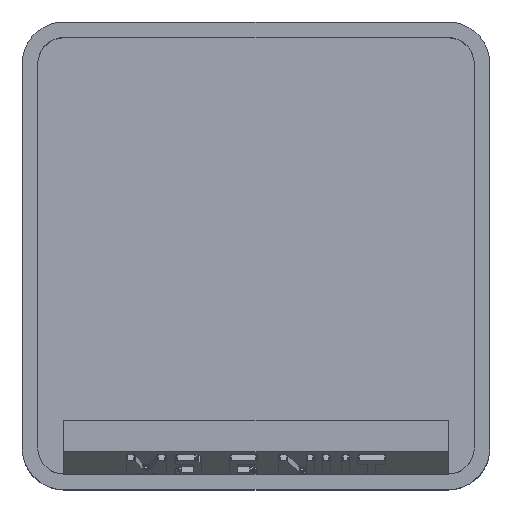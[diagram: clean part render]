
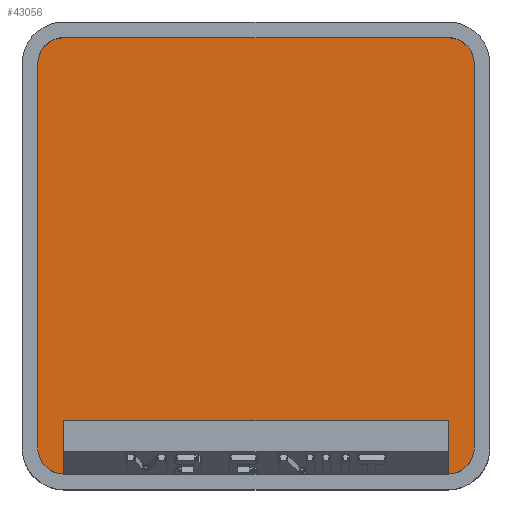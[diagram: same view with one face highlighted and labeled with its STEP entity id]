
A CAD part, top view. The second image highlights one B-rep face of the part: STEP entity #43056.
In plain terms, the highlighted planar face has unit normal (0, 0, 1).
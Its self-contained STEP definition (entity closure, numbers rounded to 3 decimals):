
#912 = PLANE('',#913);
#913 = AXIS2_PLACEMENT_3D('',#914,#915,#916);
#914 = CARTESIAN_POINT('',(-19.6,0.,21.));
#915 = DIRECTION('',(-1.,0.,0.));
#916 = DIRECTION('',(-0.,-1.,-0.));
#940 = CYLINDRICAL_SURFACE('',#941,2.35);
#941 = AXIS2_PLACEMENT_3D('',#942,#943,#944);
#942 = CARTESIAN_POINT('',(-17.25,17.25,5.95));
#943 = DIRECTION('',(-0.,-0.,1.));
#944 = DIRECTION('',(-1.,0.,0.));
#967 = PLANE('',#968);
#968 = AXIS2_PLACEMENT_3D('',#969,#970,#971);
#969 = CARTESIAN_POINT('',(0.,19.6,21.));
#970 = DIRECTION('',(0.,1.,0.));
#971 = DIRECTION('',(-1.,0.,0.));
#995 = CYLINDRICAL_SURFACE('',#996,2.35);
#996 = AXIS2_PLACEMENT_3D('',#997,#998,#999);
#997 = CARTESIAN_POINT('',(17.25,17.25,5.95));
#998 = DIRECTION('',(-0.,-0.,1.));
#999 = DIRECTION('',(-1.,0.,0.));
#1022 = PLANE('',#1023);
#1023 = AXIS2_PLACEMENT_3D('',#1024,#1025,#1026);
#1024 = CARTESIAN_POINT('',(19.6,0.,21.));
#1025 = DIRECTION('',(1.,0.,0.));
#1026 = DIRECTION('',(-0.,1.,0.));
#1050 = CYLINDRICAL_SURFACE('',#1051,2.35);
#1051 = AXIS2_PLACEMENT_3D('',#1052,#1053,#1054);
#1052 = CARTESIAN_POINT('',(17.25,-17.25,5.95));
#1053 = DIRECTION('',(-0.,-0.,1.));
#1054 = DIRECTION('',(-1.,0.,0.));
#1103 = CYLINDRICAL_SURFACE('',#1104,2.35);
#1104 = AXIS2_PLACEMENT_3D('',#1105,#1106,#1107);
#1105 = CARTESIAN_POINT('',(-17.25,-17.25,5.95));
#1106 = DIRECTION('',(-0.,-0.,1.));
#1107 = DIRECTION('',(-1.,0.,0.));
#15893 = EDGE_CURVE('',#15894,#15896,#15898,.T.);
#15894 = VERTEX_POINT('',#15895);
#15895 = CARTESIAN_POINT('',(-19.6,-17.25,5.95));
#15896 = VERTEX_POINT('',#15897);
#15897 = CARTESIAN_POINT('',(-19.6,17.25,5.95));
#15898 = SURFACE_CURVE('',#15899,(#15903,#15910),.PCURVE_S1.);
#15899 = LINE('',#15900,#15901);
#15900 = CARTESIAN_POINT('',(-19.6,0.,5.95));
#15901 = VECTOR('',#15902,1.);
#15902 = DIRECTION('',(0.,1.,0.));
#15903 = PCURVE('',#912,#15904);
#15904 = DEFINITIONAL_REPRESENTATION('',(#15905),#15909);
#15905 = LINE('',#15906,#15907);
#15906 = CARTESIAN_POINT('',(0.,-15.05));
#15907 = VECTOR('',#15908,1.);
#15908 = DIRECTION('',(-1.,0.));
#15909 = ( GEOMETRIC_REPRESENTATION_CONTEXT(2) 
PARAMETRIC_REPRESENTATION_CONTEXT() REPRESENTATION_CONTEXT('2D SPACE',''
  ) );
#15910 = PCURVE('',#15911,#15916);
#15911 = PLANE('',#15912);
#15912 = AXIS2_PLACEMENT_3D('',#15913,#15914,#15915);
#15913 = CARTESIAN_POINT('',(-17.25,-17.25,5.95));
#15914 = DIRECTION('',(0.,0.,-1.));
#15915 = DIRECTION('',(-1.,0.,0.));
#15916 = DEFINITIONAL_REPRESENTATION('',(#15917),#15921);
#15917 = LINE('',#15918,#15919);
#15918 = CARTESIAN_POINT('',(2.35,17.25));
#15919 = VECTOR('',#15920,1.);
#15920 = DIRECTION('',(0.,1.));
#15921 = ( GEOMETRIC_REPRESENTATION_CONTEXT(2) 
PARAMETRIC_REPRESENTATION_CONTEXT() REPRESENTATION_CONTEXT('2D SPACE',''
  ) );
#15968 = EDGE_CURVE('',#15969,#15894,#15971,.T.);
#15969 = VERTEX_POINT('',#15970);
#15970 = CARTESIAN_POINT('',(-17.25,-19.6,5.95));
#15971 = SURFACE_CURVE('',#15972,(#15977,#15984),.PCURVE_S1.);
#15972 = CIRCLE('',#15973,2.35);
#15973 = AXIS2_PLACEMENT_3D('',#15974,#15975,#15976);
#15974 = CARTESIAN_POINT('',(-17.25,-17.25,5.95));
#15975 = DIRECTION('',(0.,0.,-1.));
#15976 = DIRECTION('',(-1.,0.,0.));
#15977 = PCURVE('',#1103,#15978);
#15978 = DEFINITIONAL_REPRESENTATION('',(#15979),#15983);
#15979 = LINE('',#15980,#15981);
#15980 = CARTESIAN_POINT('',(6.283,0.));
#15981 = VECTOR('',#15982,1.);
#15982 = DIRECTION('',(-1.,0.));
#15983 = ( GEOMETRIC_REPRESENTATION_CONTEXT(2) 
PARAMETRIC_REPRESENTATION_CONTEXT() REPRESENTATION_CONTEXT('2D SPACE',''
  ) );
#15984 = PCURVE('',#15911,#15985);
#15985 = DEFINITIONAL_REPRESENTATION('',(#15986),#15990);
#15986 = CIRCLE('',#15987,2.35);
#15987 = AXIS2_PLACEMENT_2D('',#15988,#15989);
#15988 = CARTESIAN_POINT('',(0.,0.));
#15989 = DIRECTION('',(1.,0.));
#15990 = ( GEOMETRIC_REPRESENTATION_CONTEXT(2) 
PARAMETRIC_REPRESENTATION_CONTEXT() REPRESENTATION_CONTEXT('2D SPACE',''
  ) );
#16008 = PLANE('',#16009);
#16009 = AXIS2_PLACEMENT_3D('',#16010,#16011,#16012);
#16010 = CARTESIAN_POINT('',(0.,-19.6,21.));
#16011 = DIRECTION('',(0.,-1.,0.));
#16012 = DIRECTION('',(1.,0.,0.));
#16095 = EDGE_CURVE('',#16096,#16098,#16100,.T.);
#16096 = VERTEX_POINT('',#16097);
#16097 = CARTESIAN_POINT('',(19.6,-17.25,5.95));
#16098 = VERTEX_POINT('',#16099);
#16099 = CARTESIAN_POINT('',(17.25,-19.6,5.95));
#16100 = SURFACE_CURVE('',#16101,(#16106,#16113),.PCURVE_S1.);
#16101 = CIRCLE('',#16102,2.35);
#16102 = AXIS2_PLACEMENT_3D('',#16103,#16104,#16105);
#16103 = CARTESIAN_POINT('',(17.25,-17.25,5.95));
#16104 = DIRECTION('',(0.,0.,-1.));
#16105 = DIRECTION('',(-1.,0.,0.));
#16106 = PCURVE('',#1050,#16107);
#16107 = DEFINITIONAL_REPRESENTATION('',(#16108),#16112);
#16108 = LINE('',#16109,#16110);
#16109 = CARTESIAN_POINT('',(6.283,0.));
#16110 = VECTOR('',#16111,1.);
#16111 = DIRECTION('',(-1.,0.));
#16112 = ( GEOMETRIC_REPRESENTATION_CONTEXT(2) 
PARAMETRIC_REPRESENTATION_CONTEXT() REPRESENTATION_CONTEXT('2D SPACE',''
  ) );
#16113 = PCURVE('',#15911,#16114);
#16114 = DEFINITIONAL_REPRESENTATION('',(#16115),#16119);
#16115 = CIRCLE('',#16116,2.35);
#16116 = AXIS2_PLACEMENT_2D('',#16117,#16118);
#16117 = CARTESIAN_POINT('',(-34.5,0.));
#16118 = DIRECTION('',(1.,0.));
#16119 = ( GEOMETRIC_REPRESENTATION_CONTEXT(2) 
PARAMETRIC_REPRESENTATION_CONTEXT() REPRESENTATION_CONTEXT('2D SPACE',''
  ) );
#16193 = EDGE_CURVE('',#16096,#16194,#16196,.T.);
#16194 = VERTEX_POINT('',#16195);
#16195 = CARTESIAN_POINT('',(19.6,17.25,5.95));
#16196 = SURFACE_CURVE('',#16197,(#16201,#16208),.PCURVE_S1.);
#16197 = LINE('',#16198,#16199);
#16198 = CARTESIAN_POINT('',(19.6,0.,5.95));
#16199 = VECTOR('',#16200,1.);
#16200 = DIRECTION('',(0.,1.,0.));
#16201 = PCURVE('',#1022,#16202);
#16202 = DEFINITIONAL_REPRESENTATION('',(#16203),#16207);
#16203 = LINE('',#16204,#16205);
#16204 = CARTESIAN_POINT('',(0.,-15.05));
#16205 = VECTOR('',#16206,1.);
#16206 = DIRECTION('',(1.,0.));
#16207 = ( GEOMETRIC_REPRESENTATION_CONTEXT(2) 
PARAMETRIC_REPRESENTATION_CONTEXT() REPRESENTATION_CONTEXT('2D SPACE',''
  ) );
#16208 = PCURVE('',#15911,#16209);
#16209 = DEFINITIONAL_REPRESENTATION('',(#16210),#16214);
#16210 = LINE('',#16211,#16212);
#16211 = CARTESIAN_POINT('',(-36.85,17.25));
#16212 = VECTOR('',#16213,1.);
#16213 = DIRECTION('',(0.,1.));
#16214 = ( GEOMETRIC_REPRESENTATION_CONTEXT(2) 
PARAMETRIC_REPRESENTATION_CONTEXT() REPRESENTATION_CONTEXT('2D SPACE',''
  ) );
#16241 = EDGE_CURVE('',#16242,#16194,#16244,.T.);
#16242 = VERTEX_POINT('',#16243);
#16243 = CARTESIAN_POINT('',(17.25,19.6,5.95));
#16244 = SURFACE_CURVE('',#16245,(#16250,#16257),.PCURVE_S1.);
#16245 = CIRCLE('',#16246,2.35);
#16246 = AXIS2_PLACEMENT_3D('',#16247,#16248,#16249);
#16247 = CARTESIAN_POINT('',(17.25,17.25,5.95));
#16248 = DIRECTION('',(0.,0.,-1.));
#16249 = DIRECTION('',(-1.,0.,0.));
#16250 = PCURVE('',#995,#16251);
#16251 = DEFINITIONAL_REPRESENTATION('',(#16252),#16256);
#16252 = LINE('',#16253,#16254);
#16253 = CARTESIAN_POINT('',(6.283,0.));
#16254 = VECTOR('',#16255,1.);
#16255 = DIRECTION('',(-1.,0.));
#16256 = ( GEOMETRIC_REPRESENTATION_CONTEXT(2) 
PARAMETRIC_REPRESENTATION_CONTEXT() REPRESENTATION_CONTEXT('2D SPACE',''
  ) );
#16257 = PCURVE('',#15911,#16258);
#16258 = DEFINITIONAL_REPRESENTATION('',(#16259),#16263);
#16259 = CIRCLE('',#16260,2.35);
#16260 = AXIS2_PLACEMENT_2D('',#16261,#16262);
#16261 = CARTESIAN_POINT('',(-34.5,34.5));
#16262 = DIRECTION('',(1.,0.));
#16263 = ( GEOMETRIC_REPRESENTATION_CONTEXT(2) 
PARAMETRIC_REPRESENTATION_CONTEXT() REPRESENTATION_CONTEXT('2D SPACE',''
  ) );
#16291 = EDGE_CURVE('',#16292,#16242,#16294,.T.);
#16292 = VERTEX_POINT('',#16293);
#16293 = CARTESIAN_POINT('',(-17.25,19.6,5.95));
#16294 = SURFACE_CURVE('',#16295,(#16299,#16306),.PCURVE_S1.);
#16295 = LINE('',#16296,#16297);
#16296 = CARTESIAN_POINT('',(0.,19.6,5.95));
#16297 = VECTOR('',#16298,1.);
#16298 = DIRECTION('',(1.,0.,0.));
#16299 = PCURVE('',#967,#16300);
#16300 = DEFINITIONAL_REPRESENTATION('',(#16301),#16305);
#16301 = LINE('',#16302,#16303);
#16302 = CARTESIAN_POINT('',(0.,-15.05));
#16303 = VECTOR('',#16304,1.);
#16304 = DIRECTION('',(-1.,0.));
#16305 = ( GEOMETRIC_REPRESENTATION_CONTEXT(2) 
PARAMETRIC_REPRESENTATION_CONTEXT() REPRESENTATION_CONTEXT('2D SPACE',''
  ) );
#16306 = PCURVE('',#15911,#16307);
#16307 = DEFINITIONAL_REPRESENTATION('',(#16308),#16312);
#16308 = LINE('',#16309,#16310);
#16309 = CARTESIAN_POINT('',(-17.25,36.85));
#16310 = VECTOR('',#16311,1.);
#16311 = DIRECTION('',(-1.,0.));
#16312 = ( GEOMETRIC_REPRESENTATION_CONTEXT(2) 
PARAMETRIC_REPRESENTATION_CONTEXT() REPRESENTATION_CONTEXT('2D SPACE',''
  ) );
#16340 = EDGE_CURVE('',#15896,#16292,#16341,.T.);
#16341 = SURFACE_CURVE('',#16342,(#16347,#16354),.PCURVE_S1.);
#16342 = CIRCLE('',#16343,2.35);
#16343 = AXIS2_PLACEMENT_3D('',#16344,#16345,#16346);
#16344 = CARTESIAN_POINT('',(-17.25,17.25,5.95));
#16345 = DIRECTION('',(0.,0.,-1.));
#16346 = DIRECTION('',(-1.,0.,0.));
#16347 = PCURVE('',#940,#16348);
#16348 = DEFINITIONAL_REPRESENTATION('',(#16349),#16353);
#16349 = LINE('',#16350,#16351);
#16350 = CARTESIAN_POINT('',(6.283,0.));
#16351 = VECTOR('',#16352,1.);
#16352 = DIRECTION('',(-1.,0.));
#16353 = ( GEOMETRIC_REPRESENTATION_CONTEXT(2) 
PARAMETRIC_REPRESENTATION_CONTEXT() REPRESENTATION_CONTEXT('2D SPACE',''
  ) );
#16354 = PCURVE('',#15911,#16355);
#16355 = DEFINITIONAL_REPRESENTATION('',(#16356),#16360);
#16356 = CIRCLE('',#16357,2.35);
#16357 = AXIS2_PLACEMENT_2D('',#16358,#16359);
#16358 = CARTESIAN_POINT('',(0.,34.5));
#16359 = DIRECTION('',(1.,0.));
#16360 = ( GEOMETRIC_REPRESENTATION_CONTEXT(2) 
PARAMETRIC_REPRESENTATION_CONTEXT() REPRESENTATION_CONTEXT('2D SPACE',''
  ) );
#43056 = ADVANCED_FACE('',(#43057),#15911,.F.);
#43057 = FACE_BOUND('',#43058,.T.);
#43058 = EDGE_LOOP('',(#43059,#43060,#43061,#43082,#43083,#43084,#43085,
    #43086));
#43059 = ORIENTED_EDGE('',*,*,#15893,.F.);
#43060 = ORIENTED_EDGE('',*,*,#15968,.F.);
#43061 = ORIENTED_EDGE('',*,*,#43062,.T.);
#43062 = EDGE_CURVE('',#15969,#16098,#43063,.T.);
#43063 = SURFACE_CURVE('',#43064,(#43068,#43075),.PCURVE_S1.);
#43064 = LINE('',#43065,#43066);
#43065 = CARTESIAN_POINT('',(0.,-19.6,5.95));
#43066 = VECTOR('',#43067,1.);
#43067 = DIRECTION('',(1.,0.,0.));
#43068 = PCURVE('',#15911,#43069);
#43069 = DEFINITIONAL_REPRESENTATION('',(#43070),#43074);
#43070 = LINE('',#43071,#43072);
#43071 = CARTESIAN_POINT('',(-17.25,-2.35));
#43072 = VECTOR('',#43073,1.);
#43073 = DIRECTION('',(-1.,0.));
#43074 = ( GEOMETRIC_REPRESENTATION_CONTEXT(2) 
PARAMETRIC_REPRESENTATION_CONTEXT() REPRESENTATION_CONTEXT('2D SPACE',''
  ) );
#43075 = PCURVE('',#16008,#43076);
#43076 = DEFINITIONAL_REPRESENTATION('',(#43077),#43081);
#43077 = LINE('',#43078,#43079);
#43078 = CARTESIAN_POINT('',(0.,-15.05));
#43079 = VECTOR('',#43080,1.);
#43080 = DIRECTION('',(1.,0.));
#43081 = ( GEOMETRIC_REPRESENTATION_CONTEXT(2) 
PARAMETRIC_REPRESENTATION_CONTEXT() REPRESENTATION_CONTEXT('2D SPACE',''
  ) );
#43082 = ORIENTED_EDGE('',*,*,#16095,.F.);
#43083 = ORIENTED_EDGE('',*,*,#16193,.T.);
#43084 = ORIENTED_EDGE('',*,*,#16241,.F.);
#43085 = ORIENTED_EDGE('',*,*,#16291,.F.);
#43086 = ORIENTED_EDGE('',*,*,#16340,.F.);
